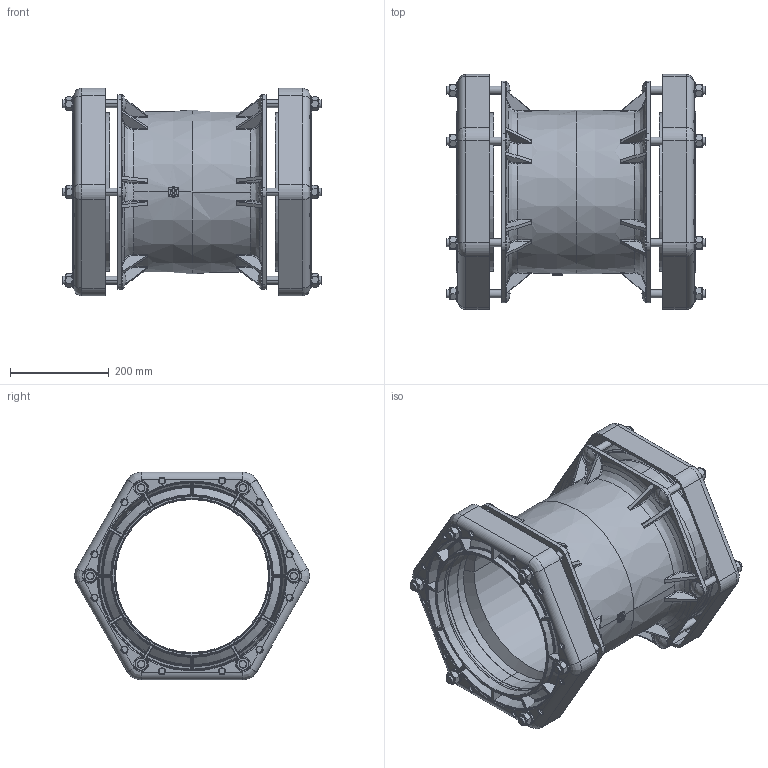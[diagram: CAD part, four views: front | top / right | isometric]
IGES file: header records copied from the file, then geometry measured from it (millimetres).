
Global section: file name: No Iges File Name specified; native system: AutoDesk Inventor R12.0; preprocessor: AutoDesk Inventor Iges Exporter R12.0; date: 20120502.085821; units: millimetre
Bounding box: 524 x 475.68 x 420.48 mm (x, y, z)
Volume: 6705059.7 mm3; surface area: 1982484.4 mm2
Topology: 1 solids, 1 shells, 2476 faces, 6957 edges, 4488 vertices
Faces by surface type: revolution 711, cone 589, plane 551, bspline 348, cylinder 215, torus 62
